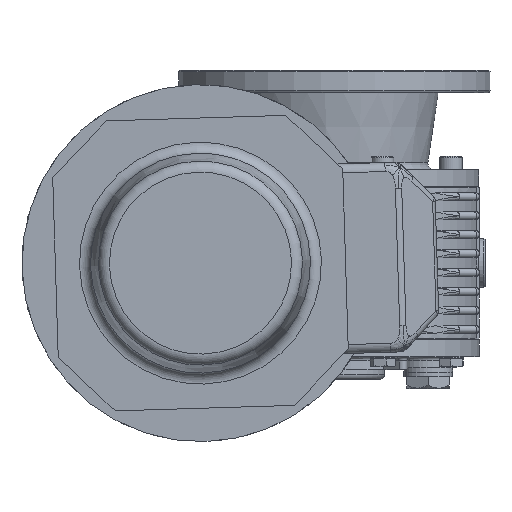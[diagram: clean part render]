
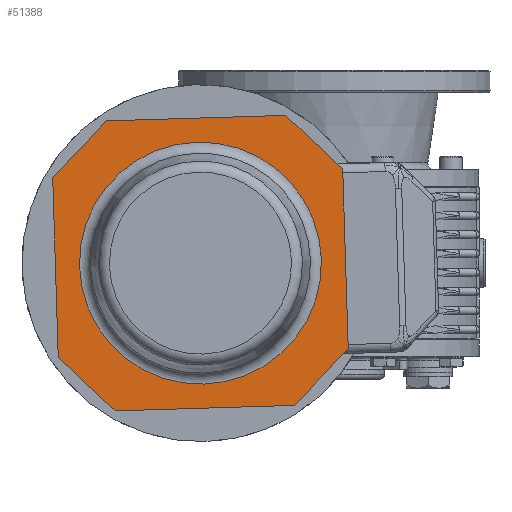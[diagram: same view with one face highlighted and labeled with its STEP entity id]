
A CAD part, left-side view. The second image highlights one B-rep face of the part: STEP entity #51388.
In plain terms, the highlighted planar face has unit normal (-1, 0, 0) as drawn and (1, 0, 0) by its records, which use the part's own axes.
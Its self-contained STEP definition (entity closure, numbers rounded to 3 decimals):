
#51282=CARTESIAN_POINT('',(209.0,0.,54.212));
#51283=VERTEX_POINT('',#51282);
#51284=CARTESIAN_POINT('',(209.0,0.0,0.0));
#51285=DIRECTION('',(1.0,0.0,0.0));
#51286=DIRECTION('',(0.0,0.0,-1.0));
#51287=AXIS2_PLACEMENT_3D('',#51284,#51285,#51286);
#51288=CIRCLE('',#51287,54.212);
#51289=EDGE_CURVE('',#51283,#51283,#51288,.T.);
#51314=CARTESIAN_POINT('',(209.0,28.6,0.0));
#51315=DIRECTION('',(1.0,0.0,0.0));
#51316=DIRECTION('',(0.0,0.0,-1.0));
#51317=AXIS2_PLACEMENT_3D('',#51314,#51315,#51316);
#51318=PLANE('',#51317);
#51319=CARTESIAN_POINT('',(209.0,-65.0,40.251));
#51320=VERTEX_POINT('',#51319);
#51321=CARTESIAN_POINT('',(209.0,-40.251,65.0));
#51322=VERTEX_POINT('',#51321);
#51323=CARTESIAN_POINT('',(209.0,-65.0,40.251));
#51324=DIRECTION('',(0.0,0.707,0.707));
#51325=VECTOR('',#51324,35.);
#51326=LINE('',#51323,#51325);
#51327=EDGE_CURVE('',#51320,#51322,#51326,.T.);
#51328=ORIENTED_EDGE('',*,*,#51327,.F.);
#51329=CARTESIAN_POINT('',(209.0,-65.0,-40.251));
#51330=VERTEX_POINT('',#51329);
#51331=CARTESIAN_POINT('',(209.0,-65.0,-40.251));
#51332=DIRECTION('',(0.0,0.0,1.0));
#51333=VECTOR('',#51332,80.503);
#51334=LINE('',#51331,#51333);
#51335=EDGE_CURVE('',#51330,#51320,#51334,.T.);
#51336=ORIENTED_EDGE('',*,*,#51335,.F.);
#51337=CARTESIAN_POINT('',(209.0,-40.251,-65.0));
#51338=VERTEX_POINT('',#51337);
#51339=CARTESIAN_POINT('',(209.0,-40.251,-65.0));
#51340=DIRECTION('',(0.0,-0.707,0.707));
#51341=VECTOR('',#51340,35.0);
#51342=LINE('',#51339,#51341);
#51343=EDGE_CURVE('',#51338,#51330,#51342,.T.);
#51344=ORIENTED_EDGE('',*,*,#51343,.F.);
#51345=CARTESIAN_POINT('',(209.0,40.251,-65.0));
#51346=VERTEX_POINT('',#51345);
#51347=CARTESIAN_POINT('',(209.0,40.251,-65.0));
#51348=DIRECTION('',(0.0,-1.0,0.0));
#51349=VECTOR('',#51348,80.503);
#51350=LINE('',#51347,#51349);
#51351=EDGE_CURVE('',#51346,#51338,#51350,.T.);
#51352=ORIENTED_EDGE('',*,*,#51351,.F.);
#51353=CARTESIAN_POINT('',(209.0,65.0,-40.251));
#51354=VERTEX_POINT('',#51353);
#51355=CARTESIAN_POINT('',(209.0,65.0,-40.251));
#51356=DIRECTION('',(0.0,-0.707,-0.707));
#51357=VECTOR('',#51356,35.0);
#51358=LINE('',#51355,#51357);
#51359=EDGE_CURVE('',#51354,#51346,#51358,.T.);
#51360=ORIENTED_EDGE('',*,*,#51359,.F.);
#51361=CARTESIAN_POINT('',(209.0,65.0,40.251));
#51362=VERTEX_POINT('',#51361);
#51363=CARTESIAN_POINT('',(209.0,65.0,40.251));
#51364=DIRECTION('',(0.0,0.0,-1.0));
#51365=VECTOR('',#51364,80.503);
#51366=LINE('',#51363,#51365);
#51367=EDGE_CURVE('',#51362,#51354,#51366,.T.);
#51368=ORIENTED_EDGE('',*,*,#51367,.F.);
#51369=CARTESIAN_POINT('',(209.0,40.251,65.0));
#51370=VERTEX_POINT('',#51369);
#51371=CARTESIAN_POINT('',(209.0,40.251,65.0));
#51372=DIRECTION('',(0.0,0.707,-0.707));
#51373=VECTOR('',#51372,35.0);
#51374=LINE('',#51371,#51373);
#51375=EDGE_CURVE('',#51370,#51362,#51374,.T.);
#51376=ORIENTED_EDGE('',*,*,#51375,.F.);
#51377=CARTESIAN_POINT('',(209.0,-40.251,65.0));
#51378=DIRECTION('',(0.0,1.0,0.0));
#51379=VECTOR('',#51378,80.503);
#51380=LINE('',#51377,#51379);
#51381=EDGE_CURVE('',#51322,#51370,#51380,.T.);
#51382=ORIENTED_EDGE('',*,*,#51381,.F.);
#51383=EDGE_LOOP('',(#51328,#51336,#51344,#51352,#51360,#51368,#51376,#51382));
#51384=FACE_OUTER_BOUND('',#51383,.T.);
#51385=ORIENTED_EDGE('',*,*,#51289,.F.);
#51386=EDGE_LOOP('',(#51385));
#51387=FACE_BOUND('',#51386,.T.);
#51388=ADVANCED_FACE('',(#51384,#51387),#51318,.T.);
